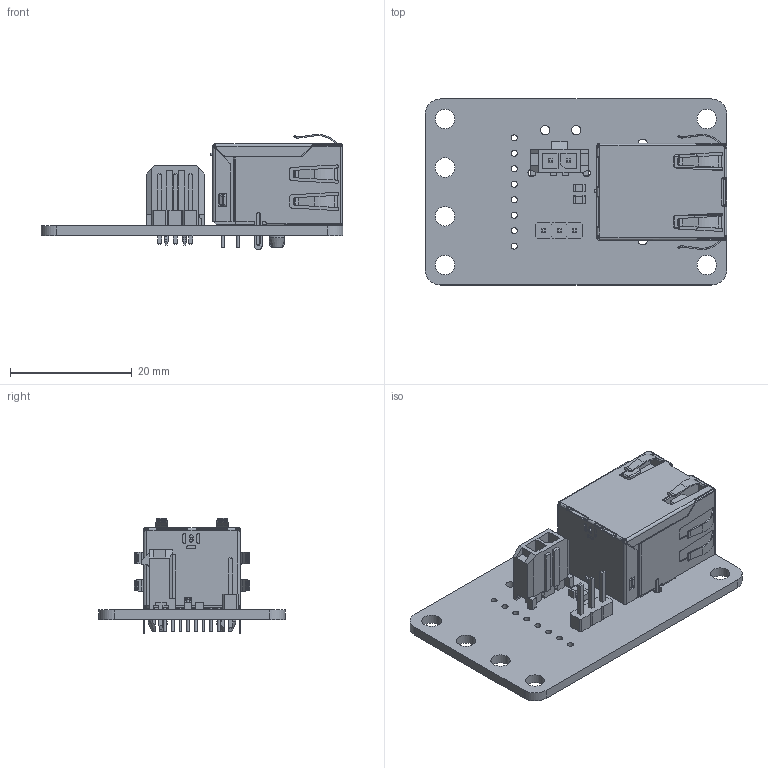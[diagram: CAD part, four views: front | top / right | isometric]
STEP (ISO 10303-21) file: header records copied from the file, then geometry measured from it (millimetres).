
FILE_DESCRIPTION(/* description */ (''),/* implementation_level */ '2;1');
FILE_NAME(/* name */ 'G:/Shared drives/PARTS (Technical Part Hierarchy)/wl-31xxx/wl-31014_io_interface_electronics/Rev2/WL-31014-2_IO_interface.step',/* time_stamp */ '2021-03-09T10:03:50+01:00',/* author */ (''),/* organization */ (''),/* preprocessor_version */ 'ST-DEVELOPER v18.1',/* originating_system */ 'Autodesk Translation Framework v9.7.1.1290',/* authorisation */ '');
FILE_SCHEMA (('AUTOMOTIVE_DESIGN { 1 0 10303 214 3 1 1 }'));
Products named in the file (118): (Unsaved); WL-31014-2_IO_interface; WL-31014-2_IO_interface (1); Board_Geoms; Pcb; Open CASCADE STEP translator 7.3 1.1.2.1; Step_Models; Top; C2_C_0805_2012Metric_5D8BC8DF; C1_C_0805_2012Metric_5D8BC8CE; J4_PinHeader_1x03_P254mm_Vertical_5E1CC7A0; 436500215; 11H009-0302-30_ASM; 002_ASM_ASM; 11H_ASSY_SHIELD_ASM_1_ASM_ASM; 11H_ASSEMBLE_BOTTOM_PCB_ASM_2_A_ASM; 11H_HOUSING_MODULE_ASM_1_ASM_ASM; 11H_HOUSING_LED_COVER_ASM_1_ASM_ASM; 11H_HOUSING_LED_ASM_7_ASM_ASM; 11H_HOUSING_1; 11H_MODULE_INSERT_ASM_5_ASM_ASM; 11H_MODULE_PCBA_ASM_3_AF0_ASM_ASM; PCBA_ASM_3_ASM_ASM; PCB_3; 4D03_3; C_1206_3; MODULE_11H_ASM_3_AF0_ASM_ASM; MODULE_CASE_11H_ASM_9_AF0_ASM_ASM; MODULE_CASE_5_AF0; CP_1_3_ASM_ASM; MANIFOLD_SOLID_BREP_57001; MANIFOLD_SOLID_BREP_57246; MANIFOLD_SOLID_BREP_57491; MANIFOLD_SOLID_BREP_57736; MANIFOLD_SOLID_BREP_57981; MANIFOLD_SOLID_BREP_58226; CP_1_3_AF0_ASM_ASM; MANIFOLD_SOLID_BREP_57001_AF0; MANIFOLD_SOLID_BREP_57246_AF0; MANIFOLD_SOLID_BREP_57491_AF0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
Assembly tree (117 placements, depth 13):
  (Unsaved)
    WL-31014-2_IO_interface
      WL-31014-2_IO_interface (1)
        Board_Geoms
          Pcb
            Open CASCADE STEP translator 7.3 1.1.2.1
        Step_Models
          Top
            C2_C_0805_2012Metric_5D8BC8DF
            C1_C_0805_2012Metric_5D8BC8CE
            J4_PinHeader_1x03_P254mm_Vertical_5E1CC7A0
      436500215
      11H009-0302-30_ASM
        002_ASM_ASM
          11H_ASSY_SHIELD_ASM_1_ASM_ASM
            11H_ASSEMBLE_BOTTOM_PCB_ASM_2_A_ASM
              11H_HOUSING_MODULE_ASM_1_ASM_ASM
                11H_HOUSING_LED_COVER_ASM_1_ASM_ASM
                  11H_HOUSING_LED_ASM_7_ASM_ASM
                11H_MODULE_INSERT_ASM_5_ASM_ASM
                  11H_MODULE_PCBA_ASM_3_AF0_ASM_ASM
                  RJ_INSERT_ASM_3_ASM_ASM
                  BOTTOM_PCBA_ASM_4_ASM_ASM
            11H_SHIELD_WOLED_WOGP_3_ASM_ASM
              MANIFOLD_SOLID_BREP_109493
Bounding box: 49.56 x 30.55 x 18.9 mm (x, y, z)
Volume: 4613.8 mm3; surface area: 11810.4 mm2
Topology: 81 solids, 81 shells, 3527 faces, 8795 edges, 5433 vertices
Faces by surface type: plane 2021, cylinder 1033, torus 177, bspline 171, sphere 94, cone 31
Full cylindrical faces by diameter (mm): 0.18 x38, 0.22 x33, 0.4 x26, 0.45 x17, 0.6 x21, 0.65 x8, 0.9 x45, 1 x11, 1.02 x2, 1.27 x3, 1.501 x2, 1.6 x2, 1.78 x1, 2.54 x1, 3.05 x1, 3.2 x6, 3.25 x2
Entity records: 120618 total; most frequent: CARTESIAN_POINT 32689, DIRECTION 17979, ORIENTED_EDGE 17446, EDGE_CURVE 8723, AXIS2_PLACEMENT_3D 6078, LINE 5823, VECTOR 5823, VERTEX_POINT 5433
